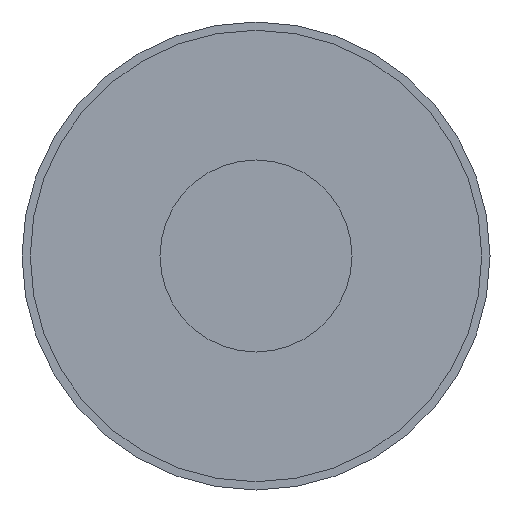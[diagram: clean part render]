
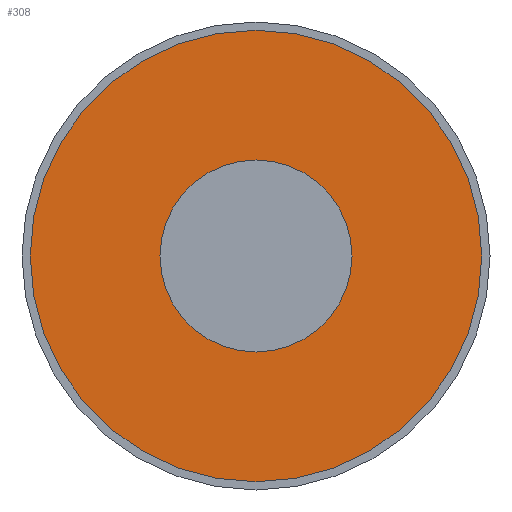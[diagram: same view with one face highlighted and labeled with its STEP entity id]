
A CAD part, front view. The second image highlights one B-rep face of the part: STEP entity #308.
In plain terms, the highlighted planar face has unit normal (0, -1, 0).
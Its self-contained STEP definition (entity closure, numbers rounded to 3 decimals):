
#7 = ORIENTED_EDGE ( 'NONE', *, *, #435, .F. ) ;
#10 = FACE_OUTER_BOUND ( 'NONE', #283, .T. ) ;
#46 = ORIENTED_EDGE ( 'NONE', *, *, #570, .F. ) ;
#122 = CARTESIAN_POINT ( 'NONE',  ( 0., 97., 0. ) ) ;
#169 = DIRECTION ( 'NONE',  ( 0., 1., 0. ) ) ;
#225 = AXIS2_PLACEMENT_3D ( 'NONE', #705, #520, #709 ) ;
#254 = AXIS2_PLACEMENT_3D ( 'NONE', #122, #557, #437 ) ;
#270 = AXIS2_PLACEMENT_3D ( 'NONE', #720, #169, #662 ) ;
#283 = EDGE_LOOP ( 'NONE', ( #46, #7 ) ) ;
#308 = ADVANCED_FACE ( 'NONE', ( #10 ), #309, .F. ) ;
#309 = PLANE ( 'NONE',  #254 ) ;
#393 = CIRCLE ( 'NONE', #225, 82. ) ;
#435 = EDGE_CURVE ( 'NONE', #636, #486, #393, .T. ) ;
#437 = DIRECTION ( 'NONE',  ( 0., 0., 1. ) ) ;
#486 = VERTEX_POINT ( 'NONE', #584 ) ;
#520 = DIRECTION ( 'NONE',  ( 0., 1., 0. ) ) ;
#557 = DIRECTION ( 'NONE',  ( 0., 1., 0. ) ) ;
#570 = EDGE_CURVE ( 'NONE', #486, #636, #669, .T. ) ;
#584 = CARTESIAN_POINT ( 'NONE',  ( 0., 97., -82. ) ) ;
#636 = VERTEX_POINT ( 'NONE', #744 ) ;
#662 = DIRECTION ( 'NONE',  ( 0., 0., 1. ) ) ;
#669 = CIRCLE ( 'NONE', #270, 82. ) ;
#705 = CARTESIAN_POINT ( 'NONE',  ( 0., 97., 0. ) ) ;
#709 = DIRECTION ( 'NONE',  ( 0., 0., 1. ) ) ;
#720 = CARTESIAN_POINT ( 'NONE',  ( 0., 97., 0. ) ) ;
#744 = CARTESIAN_POINT ( 'NONE',  ( 0., 97., 82. ) ) ;
